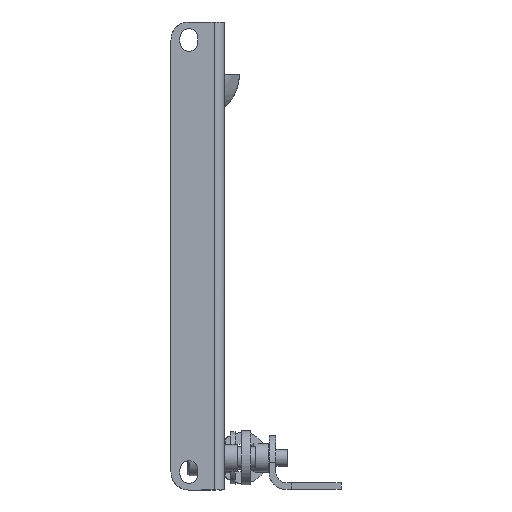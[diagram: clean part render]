
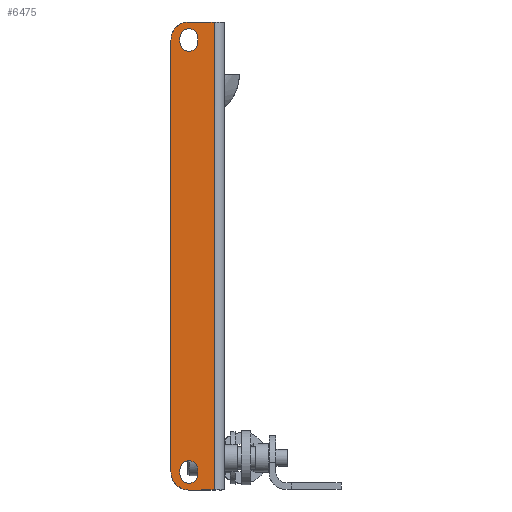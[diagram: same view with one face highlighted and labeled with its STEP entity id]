
A CAD part, left-side view. The second image highlights one B-rep face of the part: STEP entity #6475.
In plain terms, the highlighted free-form (B-spline) face has degree [1, 1] with [2, 2] control points.
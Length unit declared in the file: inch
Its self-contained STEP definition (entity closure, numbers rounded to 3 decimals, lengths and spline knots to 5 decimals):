
#4758=CARTESIAN_POINT('V9',(5.691,1.36239,
   -0.069));
#4759=VERTEX_POINT('V9',#4758);
#4782=CARTESIAN_POINT('V12',(5.691,1.61239,
   -0.069));
#4783=VERTEX_POINT('V12',#4782);
#4789=CARTESIAN_POINT('E13',(5.691,1.61239,
   -0.069));
#4790=CARTESIAN_POINT('E13',(5.816,1.61239,
   -0.069));
#4791=CARTESIAN_POINT('E13',(5.816,1.48739,
   -0.069));
#4792=CARTESIAN_POINT('E13',(5.816,1.36239,
   -0.069));
#4793=CARTESIAN_POINT('E13',(5.691,1.36239,
   -0.069));
#4801=(BOUNDED_CURVE()B_SPLINE_CURVE(2,(#4789,#4790,#4791,#4792,
   #4793),.CIRCULAR_ARC.,.F.,.U.)B_SPLINE_CURVE_WITH_KNOTS((3,2,3),
   (0.0,0.5,1.0),.UNSPECIFIED.)CURVE()
   GEOMETRIC_REPRESENTATION_ITEM()RATIONAL_B_SPLINE_CURVE((1.0,
   0.707,1.0,0.707,1.0))REPRESENTATION_ITEM(
   'E13'));
#4802=EDGE_CURVE('E13',#4783,#4759,#4801,.T.);
#4820=CARTESIAN_POINT('V11',(5.6285,1.61239,
   -0.069));
#4821=VERTEX_POINT('V11',#4820);
#4827=CARTESIAN_POINT('E12',(5.6285,1.61239,
   -0.069));
#4828=CARTESIAN_POINT('E12',(5.691,1.61239,
   -0.069));
#4829=QUASI_UNIFORM_CURVE('E12',1,(#4827,#4828),.POLYLINE_FORM.,.F.,
   .U.);
#4830=EDGE_CURVE('E12',#4821,#4783,#4829,.T.);
#4871=CARTESIAN_POINT('V10',(5.6285,1.36239,
   -0.069));
#4872=VERTEX_POINT('V10',#4871);
#4878=CARTESIAN_POINT('E11',(5.6285,1.36239,
   -0.069));
#4879=CARTESIAN_POINT('E11',(5.5035,1.36239,
   -0.069));
#4880=CARTESIAN_POINT('E11',(5.5035,1.48739,
   -0.069));
#4881=CARTESIAN_POINT('E11',(5.5035,1.61239,
   -0.069));
#4882=CARTESIAN_POINT('E11',(5.6285,1.61239,
   -0.069));
#4890=(BOUNDED_CURVE()B_SPLINE_CURVE(2,(#4878,#4879,#4880,#4881,
   #4882),.CIRCULAR_ARC.,.F.,.U.)B_SPLINE_CURVE_WITH_KNOTS((3,2,3),
   (0.0,0.5,1.0),.UNSPECIFIED.)CURVE()
   GEOMETRIC_REPRESENTATION_ITEM()RATIONAL_B_SPLINE_CURVE((1.0,
   0.707,1.0,0.707,1.0))REPRESENTATION_ITEM(
   'E11'));
#4891=EDGE_CURVE('E11',#4872,#4821,#4890,.T.);
#4908=CARTESIAN_POINT('E10',(5.691,1.36239,
   -0.069));
#4909=CARTESIAN_POINT('E10',(5.6285,1.36239,
   -0.069));
#4910=QUASI_UNIFORM_CURVE('E10',1,(#4908,#4909),.POLYLINE_FORM.,.F.,
   .U.);
#4911=EDGE_CURVE('E10',#4759,#4872,#4910,.T.);
#4923=CARTESIAN_POINT('V13',(-0.3715,1.36239,
   -0.069));
#4924=VERTEX_POINT('V13',#4923);
#4937=CARTESIAN_POINT('V16',(-0.309,1.36239,
   -0.069));
#4938=VERTEX_POINT('V16',#4937);
#4944=CARTESIAN_POINT('E17',(-0.309,1.36239,
   -0.069));
#4945=CARTESIAN_POINT('E17',(-0.3715,1.36239,
   -0.069));
#4946=QUASI_UNIFORM_CURVE('E17',1,(#4944,#4945),.POLYLINE_FORM.,.F.,
   .U.);
#4947=EDGE_CURVE('E17',#4938,#4924,#4946,.T.);
#4988=CARTESIAN_POINT('V15',(-0.309,1.61239,
   -0.069));
#4989=VERTEX_POINT('V15',#4988);
#4995=CARTESIAN_POINT('E16',(-0.309,1.61239,
   -0.069));
#4996=CARTESIAN_POINT('E16',(-0.184,1.61239,
   -0.069));
#4997=CARTESIAN_POINT('E16',(-0.184,1.48739,
   -0.069));
#4998=CARTESIAN_POINT('E16',(-0.184,1.36239,
   -0.069));
#4999=CARTESIAN_POINT('E16',(-0.309,1.36239,
   -0.069));
#5007=(BOUNDED_CURVE()B_SPLINE_CURVE(2,(#4995,#4996,#4997,#4998,
   #4999),.CIRCULAR_ARC.,.F.,.U.)B_SPLINE_CURVE_WITH_KNOTS((3,2,3),
   (0.0,0.5,1.0),.UNSPECIFIED.)CURVE()
   GEOMETRIC_REPRESENTATION_ITEM()RATIONAL_B_SPLINE_CURVE((1.0,
   0.707,1.0,0.707,1.0))REPRESENTATION_ITEM(
   'E16'));
#5008=EDGE_CURVE('E16',#4989,#4938,#5007,.T.);
#5026=CARTESIAN_POINT('V14',(-0.3715,1.61239,
   -0.069));
#5027=VERTEX_POINT('V14',#5026);
#5033=CARTESIAN_POINT('E15',(-0.3715,1.61239,
   -0.069));
#5034=CARTESIAN_POINT('E15',(-0.309,1.61239,
   -0.069));
#5035=QUASI_UNIFORM_CURVE('E15',1,(#5033,#5034),.POLYLINE_FORM.,.F.,
   .U.);
#5036=EDGE_CURVE('E15',#5027,#4989,#5035,.T.);
#5076=CARTESIAN_POINT('E14',(-0.3715,1.36239,
   -0.069));
#5077=CARTESIAN_POINT('E14',(-0.4965,1.36239,
   -0.069));
#5078=CARTESIAN_POINT('E14',(-0.4965,1.48739,
   -0.069));
#5079=CARTESIAN_POINT('E14',(-0.4965,1.61239,
   -0.069));
#5080=CARTESIAN_POINT('E14',(-0.3715,1.61239,
   -0.069));
#5088=(BOUNDED_CURVE()B_SPLINE_CURVE(2,(#5076,#5077,#5078,#5079,
   #5080),.CIRCULAR_ARC.,.F.,.U.)B_SPLINE_CURVE_WITH_KNOTS((3,2,3),
   (0.0,0.5,1.0),.UNSPECIFIED.)CURVE()
   GEOMETRIC_REPRESENTATION_ITEM()RATIONAL_B_SPLINE_CURVE((1.0,
   0.707,1.0,0.707,1.0))REPRESENTATION_ITEM(
   'E14'));
#5089=EDGE_CURVE('E14',#4924,#5027,#5088,.T.);
#5160=CARTESIAN_POINT('V7',(5.65975,1.23739,
   -0.069));
#5161=VERTEX_POINT('V7',#5160);
#5176=CARTESIAN_POINT('V6',(-0.34025,1.23739,
   -0.069));
#5177=VERTEX_POINT('V6',#5176);
#5183=CARTESIAN_POINT('E7',(-0.34025,1.23739,
   -0.069));
#5184=CARTESIAN_POINT('E7',(5.65975,1.23739,
   -0.069));
#5185=QUASI_UNIFORM_CURVE('E7',1,(#5183,#5184),.POLYLINE_FORM.,.F.,
   .U.);
#5186=EDGE_CURVE('E7',#5177,#5161,#5185,.T.);
#5221=CARTESIAN_POINT('V5',(-0.59025,1.48739,
   -0.069));
#5222=VERTEX_POINT('V5',#5221);
#5228=CARTESIAN_POINT('E6',(-0.59025,1.48739,
   -0.069));
#5229=CARTESIAN_POINT('E6',(-0.59025,1.23739,
   -0.069));
#5230=CARTESIAN_POINT('E6',(-0.34025,1.23739,
   -0.069));
#5238=(BOUNDED_CURVE()B_SPLINE_CURVE(2,(#5228,#5229,#5230),
   .CIRCULAR_ARC.,.F.,.U.)CURVE()GEOMETRIC_REPRESENTATION_ITEM()
   QUASI_UNIFORM_CURVE()RATIONAL_B_SPLINE_CURVE((1.0,
   0.707,1.0))REPRESENTATION_ITEM('E6'));
#5239=EDGE_CURVE('E6',#5222,#5177,#5238,.T.);
#5306=CARTESIAN_POINT('V8',(5.90975,1.48739,
   -0.069));
#5307=VERTEX_POINT('V8',#5306);
#5315=CARTESIAN_POINT('E8',(5.65975,1.23739,
   -0.069));
#5316=CARTESIAN_POINT('E8',(5.90975,1.23739,
   -0.069));
#5317=CARTESIAN_POINT('E8',(5.90975,1.48739,
   -0.069));
#5325=(BOUNDED_CURVE()B_SPLINE_CURVE(2,(#5315,#5316,#5317),
   .CIRCULAR_ARC.,.F.,.U.)CURVE()GEOMETRIC_REPRESENTATION_ITEM()
   QUASI_UNIFORM_CURVE()RATIONAL_B_SPLINE_CURVE((1.0,
   0.707,1.0))REPRESENTATION_ITEM('E8'));
#5326=EDGE_CURVE('E8',#5161,#5307,#5325,.T.);
#6403=CARTESIAN_POINT('V1',(5.90975,1.83539,
   -0.069));
#6404=VERTEX_POINT('V1',#6403);
#6405=CARTESIAN_POINT('V4',(-0.59025,1.83539,
   -0.069));
#6406=VERTEX_POINT('V4',#6405);
#6407=CARTESIAN_POINT('E4',(5.90975,1.83539,
   -0.069));
#6408=CARTESIAN_POINT('E4',(-0.59025,1.83539,
   -0.069));
#6409=QUASI_UNIFORM_CURVE('E4',1,(#6407,#6408),.POLYLINE_FORM.,.F.,
   .U.);
#6410=EDGE_CURVE('E4',#6404,#6406,#6409,.T.);
#6442=CARTESIAN_POINT('F2',(-0.59143,1.23621,
   -0.069));
#6443=CARTESIAN_POINT('F2',(5.91093,1.23621,
   -0.069));
#6444=CARTESIAN_POINT('F2',(-0.59143,1.83657,
   -0.069));
#6445=CARTESIAN_POINT('F2',(5.91093,1.83657,
   -0.069));
#6446=B_SPLINE_SURFACE_WITH_KNOTS('F2',1,1,((#6442,#6444),(#6443,
   #6445)),.PLANE_SURF.,.F.,.F.,.U.,(2,2),(2,2),(0.0,
   10.83073),(0.0,1.0),.UNSPECIFIED.);
#6447=ORIENTED_EDGE('E4',*,*,#6410,.F.);
#6448=CARTESIAN_POINT('E9',(5.90975,1.48739,
   -0.069));
#6449=CARTESIAN_POINT('E9',(5.90975,1.83539,
   -0.069));
#6450=QUASI_UNIFORM_CURVE('E9',1,(#6448,#6449),.POLYLINE_FORM.,.F.,
   .U.);
#6451=EDGE_CURVE('E9',#5307,#6404,#6450,.T.);
#6452=ORIENTED_EDGE('E9',*,*,#6451,.F.);
#6453=ORIENTED_EDGE('F58',*,*,#5326,.F.);
#6454=ORIENTED_EDGE('F59',*,*,#5186,.F.);
#6455=ORIENTED_EDGE('F60',*,*,#5239,.F.);
#6456=CARTESIAN_POINT('E5',(-0.59025,1.83539,
   -0.069));
#6457=CARTESIAN_POINT('E5',(-0.59025,1.48739,
   -0.069));
#6458=QUASI_UNIFORM_CURVE('E5',1,(#6456,#6457),.POLYLINE_FORM.,.F.,
   .U.);
#6459=EDGE_CURVE('E5',#6406,#5222,#6458,.T.);
#6460=ORIENTED_EDGE('E5',*,*,#6459,.F.);
#6461=EDGE_LOOP('F2',(#6447,#6452,#6453,#6454,#6455,#6460));
#6462=FACE_OUTER_BOUND('F2',#6461,.T.);
#6463=ORIENTED_EDGE('F49',*,*,#4947,.F.);
#6464=ORIENTED_EDGE('F50',*,*,#5008,.F.);
#6465=ORIENTED_EDGE('F51',*,*,#5036,.F.);
#6466=ORIENTED_EDGE('F52',*,*,#5089,.F.);
#6467=EDGE_LOOP('F2',(#6463,#6464,#6465,#6466));
#6468=FACE_BOUND('F2',#6467,.T.);
#6469=ORIENTED_EDGE('F45',*,*,#4802,.F.);
#6470=ORIENTED_EDGE('F46',*,*,#4830,.F.);
#6471=ORIENTED_EDGE('F47',*,*,#4891,.F.);
#6472=ORIENTED_EDGE('F48',*,*,#4911,.F.);
#6473=EDGE_LOOP('F2',(#6469,#6470,#6471,#6472));
#6474=FACE_BOUND('F2',#6473,.T.);
#6475=ADVANCED_FACE('F2',(#6462,#6468,#6474),#6446,.F.);
